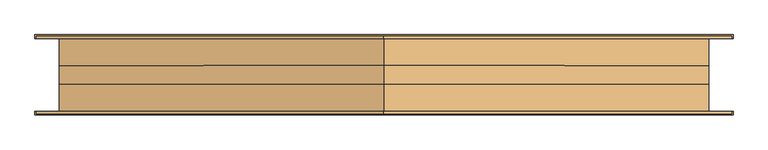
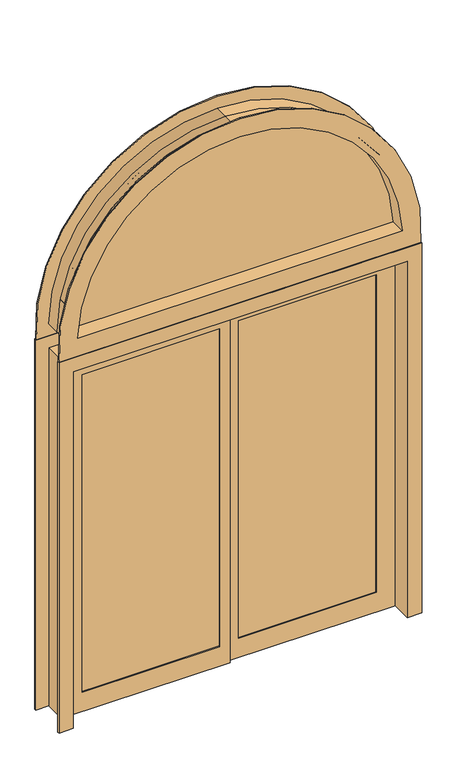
"""IFC4 building model written with IfcOpenShell, lengths in millimetres: door geometry, Pollard_Windows_Vistador Patio Doors_ATS_Half Round : AVDR7180-HRW1800."""

from ifc_helpers import new_model, si_unit, point, frame, frame_2d, origin, place, context, project, spatial, polyline, circle_curve, trimmed, segment, composite_curve, outline, extrude, faceted_brep, source, transform, mapped, element, save
from ifc_brep_helpers import plane_surface, cylinder_surface, revolved_surface, advanced_brep


def door_6cfcc16c(model_context):
    return source(origin(), model_context, "Body", "SolidModel", [
        extrude(outline(composite_curve([segment(polyline([(2168.398, -887.3216188), (2168.398, 887.3216188)]), True, "CONTINUOUS"), segment(trimmed(circle_curve(frame_2d((2155.698, 0.0)), 887.4125), [point((2168.398, 887.3216188))], [point((3043.1105, 0.0))], False, "CARTESIAN"), True, "CONTINUOUS"), segment(trimmed(circle_curve(frame_2d((2155.698, 0.0)), 887.4125), [point((3043.1105, 0.0))], [point((2168.398, -887.3216188))], False, "CARTESIAN"), True, "CONTINUOUS")], self_intersect=False)), frame((0.0, -2.5, 0.0), z_axis=(0.0, 1.0, 0.0), x_axis=(0.0, 0.0, 1.0)), (0.0, 0.0, 1.0), 5.0),
        advanced_brep(
        [(884.4223407, 2.5, 2171.2514091), (0.0, 2.5, 3040.2570909), (0.0, 25.4, 3040.2570909), (884.4223407, 25.4, 2171.2514091), (897.2545537, -2.5, 2158.5514091), (0.0, -2.5, 3052.9570909), (0.0, 2.5, 3052.9570909), (897.2545537, 2.5, 2158.5514091), (884.4223407, -25.4, 2171.2514091), (0.0, -25.4, 3040.2570909), (0.0, -2.5, 3040.2570909), (884.4223407, -2.5, 2171.2514091), (-884.4223407, 25.4, 2171.2514091), (-884.4223407, 2.5, 2171.2514091), (-897.2545537, 2.5, 2158.5514091), (-897.2545537, -2.5, 2158.5514091), (-884.4223407, -2.5, 2171.2514091), (-884.4223407, -25.4, 2171.2514091), (0.0, -25.4, 3055.8105), (-900.1125, -25.4, 2155.698), (900.1125, -25.4, 2155.698), (0.0, 25.4, 3055.8105), (900.1125, 25.4, 2155.698), (-900.1125, 25.4, 2155.698)],
        [
            (0, 1, circle_curve(frame((0.0, 2.5, 2155.698), z_axis=(0.0, -1.0, 0.0), x_axis=(0.0, 0.0, 1.0)), 884.5590909)),
            (1, 2),
            (2, 3, circle_curve(frame((0.0, 25.4, 2155.698), z_axis=(0.0, 1.0, 0.0), x_axis=(0.0, 0.0, 1.0)), 884.5590909)),
            (3, 0),
            (4, 5, circle_curve(frame((0.0, -2.5, 2155.698), z_axis=(0.0, -1.0, 0.0), x_axis=(0.0, 0.0, 1.0)), 897.2590909)),
            (5, 6),
            (6, 7, circle_curve(frame((0.0, 2.5, 2155.698), z_axis=(0.0, 1.0, 0.0), x_axis=(0.0, 0.0, 1.0)), 897.2590909)),
            (7, 4),
            (8, 9, circle_curve(frame((0.0, -25.4, 2155.698), z_axis=(0.0, -1.0, 0.0), x_axis=(0.0, 0.0, 1.0)), 884.5590909)),
            (9, 10),
            (10, 11, circle_curve(frame((0.0, -2.5, 2155.698), z_axis=(0.0, 1.0, 0.0), x_axis=(0.0, 0.0, 1.0)), 884.5590909)),
            (11, 8),
            (3, 12),
            (12, 13),
            (13, 0),
            (7, 14),
            (14, 15),
            (15, 4),
            (11, 16),
            (16, 17),
            (17, 8),
            (1, 13, circle_curve(frame((0.0, 2.5, 2155.698), z_axis=(0.0, -1.0, 0.0), x_axis=(-1.0, 0.0, 0.0)), 884.5590909)),
            (12, 2, circle_curve(frame((0.0, 25.4, 2155.698), z_axis=(0.0, 1.0, 0.0), x_axis=(-1.0, 0.0, 0.0)), 884.5590909)),
            (6, 14, circle_curve(frame((0.0, 2.5, 2155.698), z_axis=(0.0, -1.0, 0.0), x_axis=(-1.0, 0.0, 0.0)), 897.2590909)),
            (5, 15, circle_curve(frame((0.0, -2.5, 2155.698), z_axis=(0.0, -1.0, 0.0), x_axis=(-1.0, 0.0, 0.0)), 897.2590909)),
            (10, 16, circle_curve(frame((0.0, -2.5, 2155.698), z_axis=(0.0, -1.0, 0.0), x_axis=(-1.0, 0.0, 0.0)), 884.5590909)),
            (9, 17, circle_curve(frame((0.0, -25.4, 2155.698), z_axis=(0.0, -1.0, 0.0), x_axis=(-1.0, 0.0, 0.0)), 884.5590909)),
            (18, 19, circle_curve(frame((0.0, -25.4, 2155.698), z_axis=(0.0, -1.0, 0.0), x_axis=(-1.0, 0.0, 0.0)), 900.1125)),
            (19, 20),
            (20, 18, circle_curve(frame((0.0, -25.4, 2155.698), z_axis=(0.0, -1.0, 0.0), x_axis=(0.0, 0.0, 1.0)), 900.1125)),
            (21, 22, circle_curve(frame((0.0, 25.4, 2155.698), z_axis=(0.0, 1.0, 0.0), x_axis=(0.0, 0.0, 1.0)), 900.1125)),
            (22, 23),
            (23, 21, circle_curve(frame((0.0, 25.4, 2155.698), z_axis=(0.0, 1.0, 0.0), x_axis=(-1.0, 0.0, 0.0)), 900.1125)),
            (21, 18),
            (20, 22),
            (19, 23),
        ],
        [
            revolved_surface(polyline([(0.0, 25.4, 3040.2570908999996), (0.0, 2.5, 3040.2570908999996)]), (0.0, 0.0, 2155.698), (0.0, 1.0, 0.0)),
            revolved_surface(polyline([(0.0, 2.5, 3052.9570909), (0.0, -2.5, 3052.9570909)]), (0.0, 0.0, 2155.698), (0.0, 1.0, 0.0)),
            revolved_surface(polyline([(0.0, -2.5, 3040.2570908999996), (0.0, -25.4, 3040.2570908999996)]), (0.0, 0.0, 2155.698), (0.0, 1.0, 0.0)),
            plane_surface(frame((884.4223407, 25.4, 2171.2514091), z_axis=(0.0, 0.0, 1.0), x_axis=(-1.0, 0.0, 0.0))),
            plane_surface(frame((897.2545537, 2.5, 2158.5514091), z_axis=(0.0, 0.0, 1.0), x_axis=(-1.0, 0.0, 0.0))),
            plane_surface(frame((884.4223407, -2.5, 2171.2514091), z_axis=(0.0, 0.0, 1.0), x_axis=(-1.0, 0.0, 0.0))),
            revolved_surface(polyline([(-884.5590909, 25.4, 2155.698), (-884.5590909, 2.5, 2155.698)]), (0.0, 0.0, 2155.698), (0.0, 1.0, 0.0)),
            plane_surface(frame((0.0, 2.5, 2155.698), z_axis=(0.0, -1.0, 0.0), x_axis=(-1.0, 0.0, 0.0))),
            revolved_surface(polyline([(-897.2590909, 2.5, 2155.698), (-897.2590909, -2.5, 2155.698)]), (0.0, 0.0, 2155.698), (0.0, 1.0, 0.0)),
            plane_surface(frame((0.0, -2.5, 2155.698), z_axis=(0.0, 1.0, 0.0), x_axis=(-1.0, 0.0, 0.0))),
            revolved_surface(polyline([(-884.5590909, -2.5, 2155.698), (-884.5590909, -25.4, 2155.698)]), (0.0, 0.0, 2155.698), (0.0, 1.0, 0.0)),
            plane_surface(frame((0.0, -25.4, 2155.698), z_axis=(0.0, -1.0, 0.0), x_axis=(-1.0, 0.0, 0.0))),
            plane_surface(frame((0.0, 25.4, 2155.698), z_axis=(0.0, 1.0, 0.0), x_axis=(-1.0, 0.0, 0.0))),
            cylinder_surface(frame((0.0, 0.0, 2155.698), z_axis=(0.0, 1.0, 0.0), x_axis=(0.0, 0.0, 1.0)), 900.1125),
            plane_surface(frame((900.1125, -25.4, 2155.698), z_axis=(0.0, 0.0, -1.0), x_axis=(-1.0, 0.0, 0.0))),
            cylinder_surface(frame((0.0, 0.0, 2155.698), z_axis=(0.0, 1.0, 0.0), x_axis=(-1.0, 0.0, 0.0)), 900.1125),
        ],
        [
            (0, [[1, 2, 3, 4]]),
            (1, [[5, 6, 7, 8]]),
            (2, [[9, 10, 11, 12]]),
            (3, [[-4, 13, 14, 15]]),
            (4, [[-8, 16, 17, 18]]),
            (5, [[-12, 19, 20, 21]]),
            (6, [[22, -14, 23, -2]]),
            (7, [[24, -16, -7], [-1, -15, -22]]),
            (8, [[25, -17, -24, -6]]),
            (9, [[-5, -18, -25], [26, -19, -11]]),
            (10, [[27, -20, -26, -10]]),
            (11, [[28, 29, 30], [-9, -21, -27]]),
            (12, [[31, 32, 33], [-23, -13, -3]]),
            (13, [[-31, 34, -30, 35]]),
            (14, [[-35, -29, 36, -32]]),
            (15, [[-33, -36, -28, -34]]),
        ],
    ),
        advanced_brep(
        [(965.9068575, 107.95, 2087.499), (0.0, 107.95, 3124.0095), (0.0, 101.6, 3124.0095), (965.9068575, 101.6, 2087.499), (866.4635498, 25.4, 2188.718), (0.0, 25.4, 3022.7905), (0.0, 107.95, 3022.7905), (866.4635498, 107.95, 2188.718), (887.3216188, -25.4, 2168.398), (0.0, -25.4, 3043.1105), (0.0, 25.4, 3043.1105), (887.3216188, 25.4, 2168.398), (866.4635498, -107.95, 2188.718), (0.0, -107.95, 3022.7905), (0.0, -25.4, 3022.7905), (866.4635498, -25.4, 2188.718), (965.9068575, -101.6, 2087.499), (0.0, -101.6, 3124.0095), (0.0, -107.95, 3124.0095), (965.9068575, -107.95, 2087.499), (900.1125, 101.6, 2155.698), (0.0, 101.6, 3055.8105), (0.0, -101.6, 3055.8105), (900.1125, -101.6, 2155.698), (-965.9068575, 101.6, 2087.499), (-965.9068575, 107.95, 2087.499), (-866.4635498, 107.95, 2188.718), (-866.4635498, 25.4, 2188.718), (-887.3216188, 25.4, 2168.398), (-887.3216188, -25.4, 2168.398), (-866.4635498, -25.4, 2188.718), (-866.4635498, -107.95, 2188.718), (-965.9068575, -107.95, 2087.499), (-965.9068575, -101.6, 2087.499), (-900.1125, -101.6, 2155.698), (-900.1125, 101.6, 2155.698)],
        [
            (0, 1, circle_curve(frame((0.0, 107.95, 2155.698), z_axis=(0.0, -1.0, 0.0), x_axis=(0.0, 0.0, 1.0)), 968.3115)),
            (1, 2),
            (2, 3, circle_curve(frame((0.0, 101.6, 2155.698), z_axis=(0.0, 1.0, 0.0), x_axis=(0.0, 0.0, 1.0)), 968.3115)),
            (3, 0),
            (4, 5, circle_curve(frame((0.0, 25.4, 2155.698), z_axis=(0.0, -1.0, 0.0), x_axis=(0.0, 0.0, 1.0)), 867.0925)),
            (5, 6),
            (6, 7, circle_curve(frame((0.0, 107.95, 2155.698), z_axis=(0.0, 1.0, 0.0), x_axis=(0.0, 0.0, 1.0)), 867.0925)),
            (7, 4),
            (8, 9, circle_curve(frame((0.0, -25.4, 2155.698), z_axis=(0.0, -1.0, 0.0), x_axis=(0.0, 0.0, 1.0)), 887.4125)),
            (9, 10),
            (10, 11, circle_curve(frame((0.0, 25.4, 2155.698), z_axis=(0.0, 1.0, 0.0), x_axis=(0.0, 0.0, 1.0)), 887.4125)),
            (11, 8),
            (12, 13, circle_curve(frame((0.0, -107.95, 2155.698), z_axis=(0.0, -1.0, 0.0), x_axis=(0.0, 0.0, 1.0)), 867.0925)),
            (13, 14),
            (14, 15, circle_curve(frame((0.0, -25.4, 2155.698), z_axis=(0.0, 1.0, 0.0), x_axis=(0.0, 0.0, 1.0)), 867.0925)),
            (15, 12),
            (16, 17, circle_curve(frame((0.0, -101.6, 2155.698), z_axis=(0.0, -1.0, 0.0), x_axis=(0.0, 0.0, 1.0)), 968.3115)),
            (17, 18),
            (18, 19, circle_curve(frame((0.0, -107.95, 2155.698), z_axis=(0.0, 1.0, 0.0), x_axis=(0.0, 0.0, 1.0)), 968.3115)),
            (19, 16),
            (20, 21, circle_curve(frame((0.0, 101.6, 2155.698), z_axis=(0.0, -1.0, 0.0), x_axis=(0.0, 0.0, 1.0)), 900.1125)),
            (21, 22),
            (22, 23, circle_curve(frame((0.0, -101.6, 2155.698), z_axis=(0.0, 1.0, 0.0), x_axis=(0.0, 0.0, 1.0)), 900.1125)),
            (23, 20),
            (3, 24),
            (24, 25),
            (25, 0),
            (7, 26),
            (26, 27),
            (27, 4),
            (11, 28),
            (28, 29),
            (29, 8),
            (15, 30),
            (30, 31),
            (31, 12),
            (19, 32),
            (32, 33),
            (33, 16),
            (23, 34),
            (34, 35),
            (35, 20),
            (2, 24, circle_curve(frame((0.0, 101.6, 2155.698), z_axis=(0.0, -1.0, 0.0), x_axis=(-1.0, 0.0, 0.0)), 968.3115)),
            (35, 21, circle_curve(frame((0.0, 101.6, 2155.698), z_axis=(0.0, 1.0, 0.0), x_axis=(-1.0, 0.0, 0.0)), 900.1125)),
            (1, 25, circle_curve(frame((0.0, 107.95, 2155.698), z_axis=(0.0, -1.0, 0.0), x_axis=(-1.0, 0.0, 0.0)), 968.3115)),
            (6, 26, circle_curve(frame((0.0, 107.95, 2155.698), z_axis=(0.0, -1.0, 0.0), x_axis=(-1.0, 0.0, 0.0)), 867.0925)),
            (5, 27, circle_curve(frame((0.0, 25.4, 2155.698), z_axis=(0.0, -1.0, 0.0), x_axis=(-1.0, 0.0, 0.0)), 867.0925)),
            (10, 28, circle_curve(frame((0.0, 25.4, 2155.698), z_axis=(0.0, -1.0, 0.0), x_axis=(-1.0, 0.0, 0.0)), 887.4125)),
            (9, 29, circle_curve(frame((0.0, -25.4, 2155.698), z_axis=(0.0, -1.0, 0.0), x_axis=(-1.0, 0.0, 0.0)), 887.4125)),
            (14, 30, circle_curve(frame((0.0, -25.4, 2155.698), z_axis=(0.0, -1.0, 0.0), x_axis=(-1.0, 0.0, 0.0)), 867.0925)),
            (13, 31, circle_curve(frame((0.0, -107.95, 2155.698), z_axis=(0.0, -1.0, 0.0), x_axis=(-1.0, 0.0, 0.0)), 867.0925)),
            (18, 32, circle_curve(frame((0.0, -107.95, 2155.698), z_axis=(0.0, -1.0, 0.0), x_axis=(-1.0, 0.0, 0.0)), 968.3115)),
            (17, 33, circle_curve(frame((0.0, -101.6, 2155.698), z_axis=(0.0, -1.0, 0.0), x_axis=(-1.0, 0.0, 0.0)), 968.3115)),
            (22, 34, circle_curve(frame((0.0, -101.6, 2155.698), z_axis=(0.0, -1.0, 0.0), x_axis=(-1.0, 0.0, 0.0)), 900.1125)),
        ],
        [
            cylinder_surface(frame((0.0, -101.6, 2155.698), z_axis=(0.0, 1.0, 0.0), x_axis=(0.0, 0.0, 1.0)), 968.3115),
            revolved_surface(polyline([(0.0, 107.95000000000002, 3022.7905), (0.0, 25.400000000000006, 3022.7905)]), (0.0, -101.6, 2155.698), (0.0, 1.0, 0.0)),
            revolved_surface(polyline([(0.0, 25.400000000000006, 3043.1105), (0.0, -25.400000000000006, 3043.1105)]), (0.0, -101.6, 2155.698), (0.0, 1.0, 0.0)),
            revolved_surface(polyline([(0.0, -25.400000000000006, 3022.7905), (0.0, -107.95, 3022.7905)]), (0.0, -101.6, 2155.698), (0.0, 1.0, 0.0)),
            cylinder_surface(frame((0.0, -101.6, 2155.698), z_axis=(0.0, 1.0, 0.0), x_axis=(0.0, 0.0, 1.0)), 900.1125),
            plane_surface(frame((965.9068575, 101.6, 2087.499), z_axis=(0.0, 0.0, -1.0), x_axis=(-1.0, 0.0, 0.0))),
            plane_surface(frame((866.4635498, 107.95, 2188.718), z_axis=(0.0, 0.0, 1.0), x_axis=(-1.0, 0.0, 0.0))),
            plane_surface(frame((887.3216188, 25.4, 2168.398), z_axis=(0.0, 0.0, 1.0), x_axis=(-1.0, 0.0, 0.0))),
            plane_surface(frame((866.4635498, -25.4, 2188.718), z_axis=(0.0, 0.0, 1.0), x_axis=(-1.0, 0.0, 0.0))),
            plane_surface(frame((965.9068575, -107.95, 2087.499), z_axis=(0.0, 0.0, -1.0), x_axis=(-1.0, 0.0, 0.0))),
            plane_surface(frame((900.1125, -101.6, 2155.698), z_axis=(0.0, 0.0, -1.0), x_axis=(-1.0, 0.0, 0.0))),
            plane_surface(frame((0.0, 101.6, 2155.698), z_axis=(0.0, -1.0, 0.0), x_axis=(-1.0, 0.0, 0.0))),
            cylinder_surface(frame((0.0, -101.6, 2155.698), z_axis=(0.0, 1.0, 0.0), x_axis=(-1.0, 0.0, 0.0)), 968.3115),
            plane_surface(frame((0.0, 107.95, 2155.698), z_axis=(0.0, 1.0, 0.0), x_axis=(-1.0, 0.0, 0.0))),
            revolved_surface(polyline([(-867.0925, 107.95000000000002, 2155.698), (-867.0925, 25.400000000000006, 2155.698)]), (0.0, -101.6, 2155.698), (0.0, 1.0, 0.0)),
            plane_surface(frame((0.0, 25.4, 2155.698), z_axis=(0.0, -1.0, 0.0), x_axis=(-1.0, 0.0, 0.0))),
            revolved_surface(polyline([(-887.4125, 25.400000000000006, 2155.698), (-887.4125, -25.400000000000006, 2155.698)]), (0.0, -101.6, 2155.698), (0.0, 1.0, 0.0)),
            plane_surface(frame((0.0, -25.4, 2155.698), z_axis=(0.0, 1.0, 0.0), x_axis=(-1.0, 0.0, 0.0))),
            revolved_surface(polyline([(-867.0925, -25.400000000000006, 2155.698), (-867.0925, -107.95, 2155.698)]), (0.0, -101.6, 2155.698), (0.0, 1.0, 0.0)),
            plane_surface(frame((0.0, -107.95, 2155.698), z_axis=(0.0, -1.0, 0.0), x_axis=(-1.0, 0.0, 0.0))),
            plane_surface(frame((0.0, -101.6, 2155.698), z_axis=(0.0, 1.0, 0.0), x_axis=(-1.0, 0.0, 0.0))),
            cylinder_surface(frame((0.0, -101.6, 2155.698), z_axis=(0.0, 1.0, 0.0), x_axis=(-1.0, 0.0, 0.0)), 900.1125),
        ],
        [
            (0, [[1, 2, 3, 4]]),
            (1, [[5, 6, 7, 8]]),
            (2, [[9, 10, 11, 12]]),
            (3, [[13, 14, 15, 16]]),
            (0, [[17, 18, 19, 20]]),
            (4, [[21, 22, 23, 24]]),
            (5, [[-4, 25, 26, 27]]),
            (6, [[-8, 28, 29, 30]]),
            (7, [[-12, 31, 32, 33]]),
            (8, [[-16, 34, 35, 36]]),
            (9, [[-20, 37, 38, 39]]),
            (10, [[-24, 40, 41, 42]]),
            (11, [[43, -25, -3], [-21, -42, 44]]),
            (12, [[45, -26, -43, -2]]),
            (13, [[-1, -27, -45], [46, -28, -7]]),
            (14, [[47, -29, -46, -6]]),
            (15, [[48, -31, -11], [-5, -30, -47]]),
            (16, [[49, -32, -48, -10]]),
            (17, [[-9, -33, -49], [50, -34, -15]]),
            (18, [[51, -35, -50, -14]]),
            (19, [[52, -37, -19], [-13, -36, -51]]),
            (12, [[53, -38, -52, -18]]),
            (20, [[-17, -39, -53], [54, -40, -23]]),
            (21, [[-44, -41, -54, -22]]),
        ],
    ),
        extrude(outline(polyline([(-54.991, -10.0399998), (-790.1305, -10.0399998), (-790.1305, -4.9599998), (-54.991, -4.9599998), (-54.991, -10.0399998)])), frame((0.0, 0.0, 109.982), z_axis=(0.0, 0.0, 1.0), x_axis=(1.0, 0.0, 0.0)), (0.0, 0.0, 1.0), 1790.586),
        extrude(outline(polyline([(54.991, 10.0399998), (790.1305, 10.0399998), (790.1305, 4.9599998), (54.991, 4.9599998), (54.991, 10.0399998)])), frame((0.0, 0.0, 109.982), z_axis=(0.0, 0.0, 1.0), x_axis=(1.0, 0.0, 0.0)), (0.0, 0.0, 1.0), 1790.586),
        extrude(outline(polyline([(2010.55, 891.3625), (2010.55, 0.0), (0.0, 0.0), (0.0, 891.3625), (2010.55, 891.3625)]), holes=[polyline([(109.982, 790.1305), (109.982, 54.991), (1900.568, 54.991), (1900.568, 790.1305), (109.982, 790.1305)])]), frame((0.0, 0.0, 0.0), z_axis=(0.0, 1.0, 0.0), x_axis=(0.0, 0.0, 1.0)), (0.0, 0.0, 1.0), 14.9999996),
        extrude(outline(polyline([(2010.55, -891.3625), (0.0, -891.3625), (0.0, 0.0), (2010.55, 0.0), (2010.55, -891.3625)]), holes=[polyline([(1900.568, -790.1305), (1900.568, -54.991), (109.982, -54.991), (109.982, -790.1305), (1900.568, -790.1305)])]), frame((0.0, -14.9999996, 0.0), z_axis=(0.0, 1.0, 0.0), x_axis=(0.0, 0.0, 1.0)), (0.0, 0.0, 1.0), 14.9999996),
        faceted_brep([(968.3115, 111.6, 0.0), (968.3115, 101.6, 0.0), (900.1125, 101.6, 0.0), (900.1125, -101.6, 0.0), (968.3115, -101.6, 0.0), (968.3115, -111.6, 0.0), (891.3625, -111.6, 0.0), (891.3625, 111.6, 0.0), (968.3115, 111.6, 2087.499), (968.3115, 101.6, 2087.499), (-968.3115, 101.6, 2087.499), (-968.3115, 101.6, 0.0), (-900.1125, 101.6, 0.0), (-900.1125, 101.6, 2019.3), (900.1125, 101.6, 2019.3), (900.1125, -101.6, 2019.3), (-900.1125, -101.6, 2019.3), (-900.1125, -101.6, 0.0), (-968.3115, -101.6, 0.0), (-968.3115, -101.6, 2087.499), (968.3115, -101.6, 2087.499), (968.3115, -111.6, 2087.499), (-968.3115, -111.6, 2087.499), (-968.3115, -111.6, 0.0), (-891.3625, -111.6, 0.0), (-891.3625, -111.6, 2010.55), (891.3625, -111.6, 2010.55), (891.3625, 111.6, 2010.55), (-891.3625, 111.6, 2010.55), (-891.3625, 111.6, 0.0), (-968.3115, 111.6, 0.0), (-968.3115, 111.6, 2087.499)], [[[0, 1, 2, 3, 4, 5, 6, 7]], [[1, 0, 8, 9]], [[2, 1, 9, 10, 11, 12, 13, 14]], [[2, 14, 15, 3]], [[4, 3, 15, 16, 17, 18, 19, 20]], [[5, 4, 20, 21]], [[6, 5, 21, 22, 23, 24, 25, 26]], [[6, 26, 27, 7]], [[0, 7, 27, 28, 29, 30, 31, 8]], [[30, 29, 24, 23, 18, 17, 12, 11]], [[28, 25, 24, 29]], [[22, 19, 18, 23]], [[16, 13, 12, 17]], [[10, 31, 30, 11]], [[9, 8, 31, 10]], [[27, 26, 25, 28]], [[15, 14, 13, 16]], [[21, 20, 19, 22]]]),
    ])


if __name__ == "__main__":
    model = new_model("IFC4")
    model_context = context("Model", 3, world=origin())
    ifc_project = project(units=[si_unit("LENGTHUNIT", "METRE", prefix="MILLI")], contexts=[model_context])
    site = spatial("IfcSite", under=ifc_project)
    building = spatial("IfcBuilding", under=site)
    placement = place(None, origin())
    door_shape = door_6cfcc16c(model_context)
    element("IfcDoor", 1, ObjectType="Pollard_Windows_Vistador Patio Doors_ATS_Half Round : AVDR7180-HRW1800", at=placement, inside=building, context=model_context, shape_type="MappedRepresentation", body=[
        mapped(door_shape, transform((0.0, 0.0, 0.0), x_axis=(1.0, 0.0, 0.0), y_axis=(0.0, 1.0, 0.0), z_axis=(0.0, 0.0, 1.0))),
    ])
    save(model, "model.ifc")
